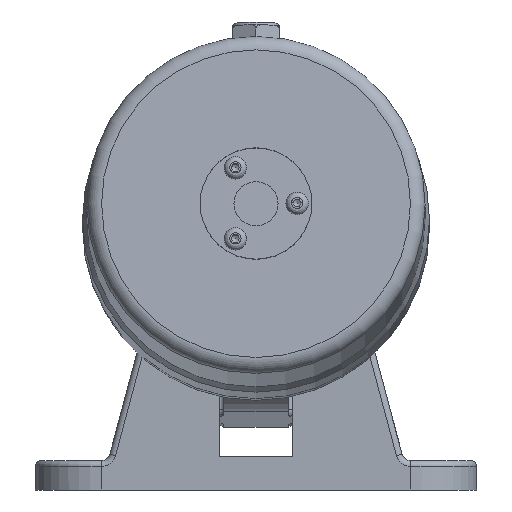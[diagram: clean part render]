
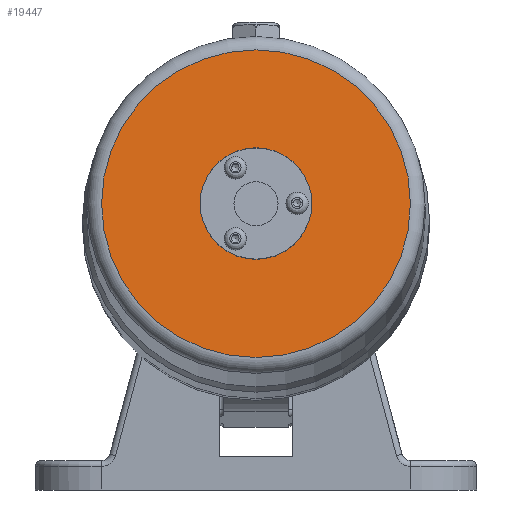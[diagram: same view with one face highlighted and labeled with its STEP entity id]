
A CAD part, front view. The second image highlights one B-rep face of the part: STEP entity #19447.
In plain terms, the highlighted planar face has unit normal (0, -0.996, 0.086).
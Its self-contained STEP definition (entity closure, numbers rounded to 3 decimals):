
#665=FACE_BOUND('',#4010,.T.);
#1774=CIRCLE('',#21275,52.5);
#1776=CIRCLE('',#21277,52.5);
#1884=CIRCLE('',#21513,19.);
#2873=FACE_OUTER_BOUND('',#4009,.T.);
#4009=EDGE_LOOP('',(#16825,#16826));
#4010=EDGE_LOOP('',(#16827));
#8435=VERTEX_POINT('',#36244);
#8436=VERTEX_POINT('',#36245);
#8666=VERTEX_POINT('',#37176);
#11071=EDGE_CURVE('',#8435,#8436,#1774,.T.);
#11073=EDGE_CURVE('',#8436,#8435,#1776,.T.);
#11400=EDGE_CURVE('',#8666,#8666,#1884,.T.);
#16825=ORIENTED_EDGE('',*,*,#11071,.F.);
#16826=ORIENTED_EDGE('',*,*,#11073,.F.);
#16827=ORIENTED_EDGE('',*,*,#11400,.T.);
#17526=PLANE('',#21512);
#19447=ADVANCED_FACE('',(#2873,#665),#17526,.T.);
#21275=AXIS2_PLACEMENT_3D('',#36246,#26267,#26268);
#21277=AXIS2_PLACEMENT_3D('',#36248,#26271,#26272);
#21512=AXIS2_PLACEMENT_3D('',#37175,#26892,#26893);
#21513=AXIS2_PLACEMENT_3D('',#37177,#26894,#26895);
#26267=DIRECTION('center_axis',(0.,0.996,
-0.086));
#26268=DIRECTION('ref_axis',(0.,-0.086,-0.996));
#26271=DIRECTION('center_axis',(0.,0.996,
-0.086));
#26272=DIRECTION('ref_axis',(0.,-0.086,-0.996));
#26892=DIRECTION('center_axis',(0.,-0.996,
0.086));
#26893=DIRECTION('ref_axis',(1.,0.,0.));
#26894=DIRECTION('center_axis',(0.,0.996,
-0.086));
#26895=DIRECTION('ref_axis',(-0.866,-0.043,-0.498));
#36244=CARTESIAN_POINT('',(0.,-193.685,155.949));
#36245=CARTESIAN_POINT('',(-52.5,-198.181,103.642));
#36246=CARTESIAN_POINT('Origin',(0.,-198.181,
103.642));
#36248=CARTESIAN_POINT('Origin',(0.,-198.181,
103.642));
#37175=CARTESIAN_POINT('Origin',(0.,-195.719,
132.286));
#37176=CARTESIAN_POINT('',(16.454,-197.367,113.107));
#37177=CARTESIAN_POINT('Origin',(0.,-198.181,
103.642));
